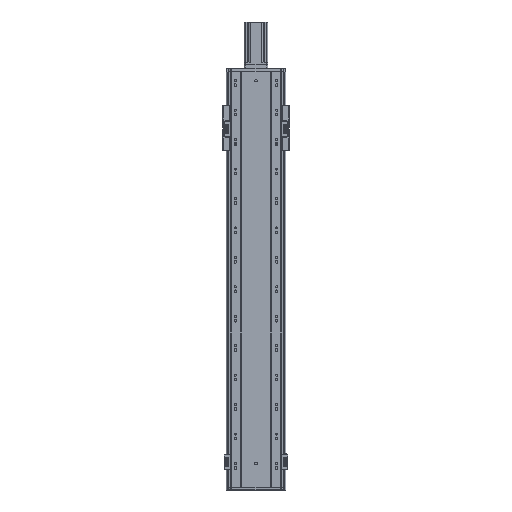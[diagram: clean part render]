
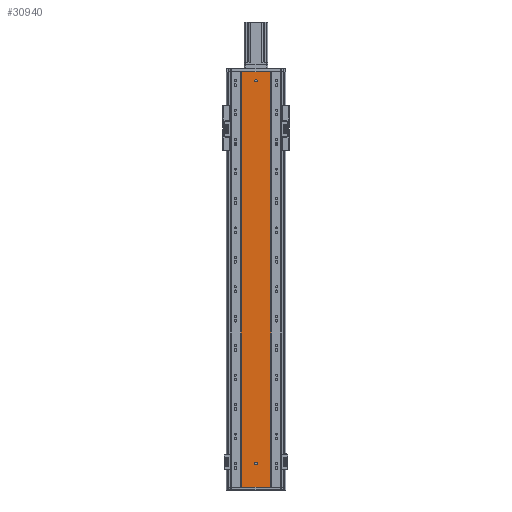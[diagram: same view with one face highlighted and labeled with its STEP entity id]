
A CAD part, front view. The second image highlights one B-rep face of the part: STEP entity #30940.
In plain terms, the highlighted planar face has unit normal (0, -1, 0).
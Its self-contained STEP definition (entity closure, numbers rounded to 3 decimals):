
#378 = CARTESIAN_POINT ( 'NONE',  ( 136.47, 79.476, 84. ) ) ;
#460 = CARTESIAN_POINT ( 'NONE',  ( 136.47, 79.476, 76. ) ) ;
#479 = CARTESIAN_POINT ( 'NONE',  ( 136.47, 79.476, 1384. ) ) ;
#522 = CARTESIAN_POINT ( 'NONE',  ( 136.47, 79.476, 1376. ) ) ;
#1379 = CARTESIAN_POINT ( 'NONE',  ( 185.97, 79.476, 1410. ) ) ;
#1860 = CARTESIAN_POINT ( 'NONE',  ( 185.97, 79.476, 0. ) ) ;
#1880 = CARTESIAN_POINT ( 'NONE',  ( 86.97, 79.476, 1410. ) ) ;
#2042 = CARTESIAN_POINT ( 'NONE',  ( 86.97, 79.476, 0. ) ) ;
#4754 = VERTEX_POINT ( 'NONE', #378 ) ;
#9566 = CIRCLE ( 'NONE', #43142, 4. ) ;
#9689 = CIRCLE ( 'NONE', #43187, 4. ) ;
#9781 = VECTOR ( 'NONE', #20704, 1000. ) ;
#9798 = LINE ( 'NONE', #20703, #9781 ) ;
#9853 = LINE ( 'NONE', #16036, #9855 ) ;
#9855 = VECTOR ( 'NONE', #16037, 1000. ) ;
#13273 = ORIENTED_EDGE ( 'NONE', *, *, #45926, .F. ) ;
#13275 = ORIENTED_EDGE ( 'NONE', *, *, #45944, .T. ) ;
#13281 = ORIENTED_EDGE ( 'NONE', *, *, #45981, .F. ) ;
#13303 = ORIENTED_EDGE ( 'NONE', *, *, #45975, .F. ) ;
#13318 = ORIENTED_EDGE ( 'NONE', *, *, #48340, .F. ) ;
#13319 = ORIENTED_EDGE ( 'NONE', *, *, #48444, .F. ) ;
#13331 = ORIENTED_EDGE ( 'NONE', *, *, #45940, .T. ) ;
#13344 = ORIENTED_EDGE ( 'NONE', *, *, #45857, .F. ) ;
#14432 = AXIS2_PLACEMENT_3D ( 'NONE', #47925, #47926, #47924 ) ;
#16023 = CARTESIAN_POINT ( 'NONE',  ( 185.97, 79.476, 940. ) ) ;
#16030 = CARTESIAN_POINT ( 'NONE',  ( 185.97, 79.476, 0. ) ) ;
#16033 = CARTESIAN_POINT ( 'NONE',  ( 185.97, 79.476, 1410. ) ) ;
#16036 = CARTESIAN_POINT ( 'NONE',  ( 0., 79.476, 1410. ) ) ;
#16037 = DIRECTION ( 'NONE',  ( 1., 0., 0. ) ) ;
#16039 = CARTESIAN_POINT ( 'NONE',  ( 185.97, 79.476, 470. ) ) ;
#18174 = EDGE_LOOP ( 'NONE', ( #13273, #13318 ) ) ;
#18189 = EDGE_LOOP ( 'NONE', ( #13344, #13319 ) ) ;
#18209 = EDGE_LOOP ( 'NONE', ( #13275, #13303, #13281, #13331 ) ) ;
#18477 = VERTEX_POINT ( 'NONE', #522 ) ;
#18490 = VERTEX_POINT ( 'NONE', #460 ) ;
#18497 = VERTEX_POINT ( 'NONE', #479 ) ;
#20682 = CARTESIAN_POINT ( 'NONE',  ( 86.97, 79.476, 470. ) ) ;
#20686 = CARTESIAN_POINT ( 'NONE',  ( 86.97, 79.476, 1410. ) ) ;
#20696 = CARTESIAN_POINT ( 'NONE',  ( 86.97, 79.476, 0. ) ) ;
#20700 = CARTESIAN_POINT ( 'NONE',  ( 86.97, 79.476, 940. ) ) ;
#20703 = CARTESIAN_POINT ( 'NONE',  ( 0., 79.476, 0. ) ) ;
#20704 = DIRECTION ( 'NONE',  ( 1., 0., 0. ) ) ;
#21317 = CARTESIAN_POINT ( 'NONE',  ( 136.47, 79.476, 80. ) ) ;
#21319 = DIRECTION ( 'NONE',  ( 0., -1., 0. ) ) ;
#21321 = DIRECTION ( 'NONE',  ( 0., 0., -1. ) ) ;
#21751 = VERTEX_POINT ( 'NONE', #1379 ) ;
#23624 = CARTESIAN_POINT ( 'NONE',  ( 136.47, 79.476, 1380. ) ) ;
#23665 = DIRECTION ( 'NONE',  ( 0., -1., 0. ) ) ;
#23698 = DIRECTION ( 'NONE',  ( 0., 0., -1. ) ) ;
#28232 = CARTESIAN_POINT ( 'NONE',  ( 136.47, 79.476, 1380. ) ) ;
#28235 = DIRECTION ( 'NONE',  ( 0., -1., 0. ) ) ;
#28236 = DIRECTION ( 'NONE',  ( 0., 0., -1. ) ) ;
#28366 = VERTEX_POINT ( 'NONE', #1860 ) ;
#28370 = VERTEX_POINT ( 'NONE', #1880 ) ;
#28425 = VERTEX_POINT ( 'NONE', #2042 ) ;
#30940 = ADVANCED_FACE ( 'NONE', ( #34703, #34749, #34672 ), #47928, .F. ) ;
#34050 = CIRCLE ( 'NONE', #42410, 4. ) ;
#34151 = CIRCLE ( 'NONE', #42417, 4. ) ;
#34672 = FACE_OUTER_BOUND ( 'NONE', #18209, .T. ) ;
#34703 = FACE_BOUND ( 'NONE', #18189, .T. ) ;
#34749 = FACE_BOUND ( 'NONE', #18174, .T. ) ;
#39325 = DIRECTION ( 'NONE',  ( 0., -1., 0. ) ) ;
#39367 = DIRECTION ( 'NONE',  ( 0., 0., -1. ) ) ;
#39370 = CARTESIAN_POINT ( 'NONE',  ( 136.47, 79.476, 80. ) ) ;
#42410 = AXIS2_PLACEMENT_3D ( 'NONE', #39370, #39325, #39367 ) ;
#42417 = AXIS2_PLACEMENT_3D ( 'NONE', #28232, #28235, #28236 ) ;
#43142 = AXIS2_PLACEMENT_3D ( 'NONE', #23624, #23665, #23698 ) ;
#43187 = AXIS2_PLACEMENT_3D ( 'NONE', #21317, #21319, #21321 ) ;
#44036 = B_SPLINE_CURVE_WITH_KNOTS ( 'NONE', 3,
 ( #20686, #20700, #20682, #20696 ),
 .UNSPECIFIED., .F., .F.,
 ( 4, 4 ),
 ( 0., 1. ),
 .UNSPECIFIED. ) ;
#44049 = B_SPLINE_CURVE_WITH_KNOTS ( 'NONE', 3,
 ( #16033, #16023, #16039, #16030 ),
 .UNSPECIFIED., .F., .F.,
 ( 4, 4 ),
 ( 0., 1. ),
 .UNSPECIFIED. ) ;
#45857 = EDGE_CURVE ( 'NONE', #18477, #18497, #9566, .T. ) ;
#45926 = EDGE_CURVE ( 'NONE', #18490, #4754, #9689, .T. ) ;
#45940 = EDGE_CURVE ( 'NONE', #28370, #28425, #44036, .T. ) ;
#45944 = EDGE_CURVE ( 'NONE', #28425, #28366, #9798, .T. ) ;
#45975 = EDGE_CURVE ( 'NONE', #21751, #28366, #44049, .T. ) ;
#45981 = EDGE_CURVE ( 'NONE', #28370, #21751, #9853, .T. ) ;
#47924 = DIRECTION ( 'NONE',  ( 0., 0., 1. ) ) ;
#47925 = CARTESIAN_POINT ( 'NONE',  ( 0., 79.476, 1410. ) ) ;
#47926 = DIRECTION ( 'NONE',  ( 0., 1., 0. ) ) ;
#47928 = PLANE ( 'NONE',  #14432 ) ;
#48340 = EDGE_CURVE ( 'NONE', #4754, #18490, #34050, .T. ) ;
#48444 = EDGE_CURVE ( 'NONE', #18497, #18477, #34151, .T. ) ;
